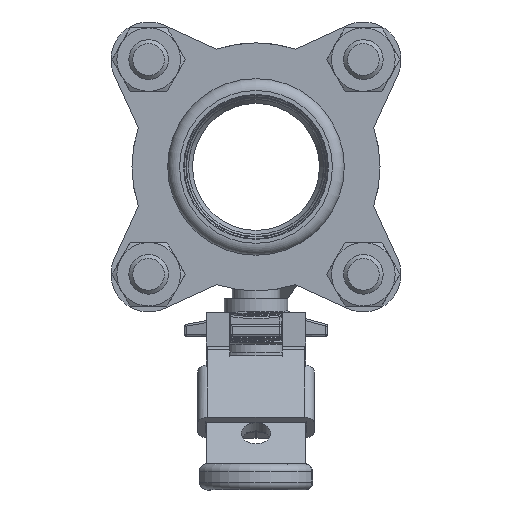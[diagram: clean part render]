
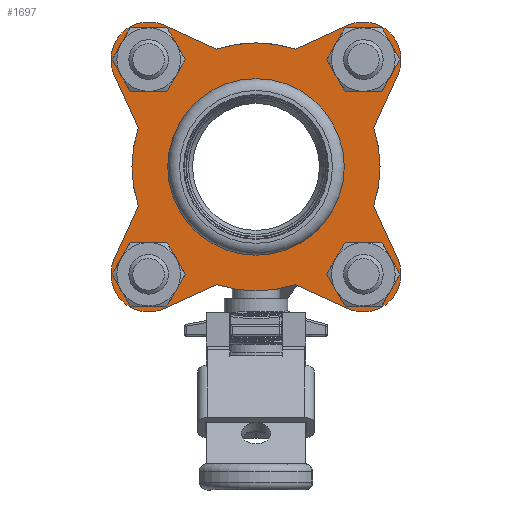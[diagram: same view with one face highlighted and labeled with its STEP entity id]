
A CAD part, left-side view. The second image highlights one B-rep face of the part: STEP entity #1697.
In plain terms, the highlighted planar face has unit normal (-1, 0, 0).
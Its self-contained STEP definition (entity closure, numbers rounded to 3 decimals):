
#1697=ADVANCED_FACE('',(#3566,#3567,#3568,#3569,#3570,#3571),#3572,.T.);
#3566=FACE_BOUND('',#9089,.T.);
#3567=FACE_BOUND('',#9090,.T.);
#3568=FACE_BOUND('',#9091,.T.);
#3569=FACE_BOUND('',#9092,.T.);
#3570=FACE_BOUND('',#9093,.T.);
#3571=FACE_OUTER_BOUND('',#9094,.T.);
#3572=PLANE('',#9095);
#9089=EDGE_LOOP('',(#82211));
#9090=EDGE_LOOP('',(#82212));
#9091=EDGE_LOOP('',(#82213));
#9092=EDGE_LOOP('',(#82214));
#9093=EDGE_LOOP('',(#82215));
#9094=EDGE_LOOP('',(#82216,#82217,#82218,#82219,#82220,#82221,#82222,#82223,#82224,#82225,#82226,#82227,#82228,#82229,#82230,#82231));
#9095=AXIS2_PLACEMENT_3D('',#82232,#82233,#82234);
#82211=ORIENTED_EDGE('',*,*,#86783,.T.);
#82212=ORIENTED_EDGE('',*,*,#86871,.F.);
#82213=ORIENTED_EDGE('',*,*,#86868,.F.);
#82214=ORIENTED_EDGE('',*,*,#86865,.F.);
#82215=ORIENTED_EDGE('',*,*,#86862,.F.);
#82216=ORIENTED_EDGE('',*,*,#86804,.F.);
#82217=ORIENTED_EDGE('',*,*,#86860,.F.);
#82218=ORIENTED_EDGE('',*,*,#86857,.F.);
#82219=ORIENTED_EDGE('',*,*,#86853,.F.);
#82220=ORIENTED_EDGE('',*,*,#86849,.F.);
#82221=ORIENTED_EDGE('',*,*,#86845,.F.);
#82222=ORIENTED_EDGE('',*,*,#86842,.F.);
#82223=ORIENTED_EDGE('',*,*,#86838,.F.);
#82224=ORIENTED_EDGE('',*,*,#86834,.F.);
#82225=ORIENTED_EDGE('',*,*,#86830,.F.);
#82226=ORIENTED_EDGE('',*,*,#86827,.F.);
#82227=ORIENTED_EDGE('',*,*,#86823,.F.);
#82228=ORIENTED_EDGE('',*,*,#86819,.F.);
#82229=ORIENTED_EDGE('',*,*,#86815,.F.);
#82230=ORIENTED_EDGE('',*,*,#86812,.F.);
#82231=ORIENTED_EDGE('',*,*,#86808,.F.);
#82232=CARTESIAN_POINT('',(-32.6,-27.047,27.047));
#82233=DIRECTION('',(-1.0,0.0,0.0));
#82234=DIRECTION('',(0.0,0.0,-1.0));
#86783=EDGE_CURVE('',#89244,#89244,#89245,.F.);
#86804=EDGE_CURVE('',#89279,#89281,#89282,.T.);
#86808=EDGE_CURVE('',#89281,#89287,#89288,.T.);
#86812=EDGE_CURVE('',#89287,#89292,#89293,.T.);
#86815=EDGE_CURVE('',#89292,#89296,#89297,.T.);
#86819=EDGE_CURVE('',#89296,#89302,#89303,.T.);
#86823=EDGE_CURVE('',#89302,#89308,#89309,.T.);
#86827=EDGE_CURVE('',#89308,#89313,#89314,.T.);
#86830=EDGE_CURVE('',#89313,#89317,#89318,.T.);
#86834=EDGE_CURVE('',#89317,#89323,#89324,.T.);
#86838=EDGE_CURVE('',#89323,#89329,#89330,.T.);
#86842=EDGE_CURVE('',#89329,#89334,#89335,.T.);
#86845=EDGE_CURVE('',#89334,#89338,#89339,.T.);
#86849=EDGE_CURVE('',#89338,#89344,#89345,.T.);
#86853=EDGE_CURVE('',#89344,#89350,#89351,.T.);
#86857=EDGE_CURVE('',#89350,#89355,#89356,.T.);
#86860=EDGE_CURVE('',#89355,#89279,#89359,.T.);
#86862=EDGE_CURVE('',#89361,#89361,#89362,.T.);
#86865=EDGE_CURVE('',#89366,#89366,#89367,.T.);
#86868=EDGE_CURVE('',#89371,#89371,#89372,.T.);
#86871=EDGE_CURVE('',#89376,#89376,#89377,.T.);
#89244=VERTEX_POINT('',#94618);
#89245=CIRCLE('',#94619,21.25);
#89279=VERTEX_POINT('',#94654);
#89281=VERTEX_POINT('',#94657);
#89282=LINE('',#94658,#94659);
#89287=VERTEX_POINT('',#94665);
#89288=CIRCLE('',#94666,9.5);
#89292=VERTEX_POINT('',#94672);
#89293=LINE('',#94673,#94674);
#89296=VERTEX_POINT('',#94678);
#89297=CIRCLE('',#94679,31.25);
#89302=VERTEX_POINT('',#94686);
#89303=LINE('',#94687,#94688);
#89308=VERTEX_POINT('',#94694);
#89309=CIRCLE('',#94695,9.5);
#89313=VERTEX_POINT('',#94701);
#89314=LINE('',#94702,#94703);
#89317=VERTEX_POINT('',#94707);
#89318=CIRCLE('',#94708,31.25);
#89323=VERTEX_POINT('',#94715);
#89324=LINE('',#94716,#94717);
#89329=VERTEX_POINT('',#94723);
#89330=CIRCLE('',#94724,9.5);
#89334=VERTEX_POINT('',#94730);
#89335=LINE('',#94731,#94732);
#89338=VERTEX_POINT('',#94736);
#89339=CIRCLE('',#94737,31.25);
#89344=VERTEX_POINT('',#94744);
#89345=LINE('',#94745,#94746);
#89350=VERTEX_POINT('',#94752);
#89351=CIRCLE('',#94753,9.5);
#89355=VERTEX_POINT('',#94759);
#89356=LINE('',#94760,#94761);
#89359=CIRCLE('',#94765,31.25);
#89361=VERTEX_POINT('',#94767);
#89362=CIRCLE('',#94768,5.25);
#89366=VERTEX_POINT('',#94772);
#89367=CIRCLE('',#94773,5.25);
#89371=VERTEX_POINT('',#94777);
#89372=CIRCLE('',#94778,5.25);
#89376=VERTEX_POINT('',#94782);
#89377=CIRCLE('',#94783,5.25);
#94618=CARTESIAN_POINT('',(-32.6,0.,21.25));
#94619=AXIS2_PLACEMENT_3D('',#104156,#104157,#104158);
#94654=CARTESIAN_POINT('',(-32.6,-9.856,29.655));
#94657=CARTESIAN_POINT('',(-32.6,-23.109,35.692));
#94658=CARTESIAN_POINT('',(-32.6,-9.856,29.655));
#94659=VECTOR('',#104200,1.0);
#94665=CARTESIAN_POINT('',(-32.6,-35.692,23.109));
#94666=AXIS2_PLACEMENT_3D('',#104205,#104206,#104207);
#94672=CARTESIAN_POINT('',(-32.6,-29.655,9.856));
#94673=CARTESIAN_POINT('',(-32.6,-35.692,23.109));
#94674=VECTOR('',#104210,1.0);
#94678=CARTESIAN_POINT('',(-32.6,-29.655,-9.856));
#94679=AXIS2_PLACEMENT_3D('',#104212,#104213,#104214);
#94686=CARTESIAN_POINT('',(-32.6,-35.692,-23.109));
#94687=CARTESIAN_POINT('',(-32.6,-29.655,-9.856));
#94688=VECTOR('',#104217,1.0);
#94694=CARTESIAN_POINT('',(-32.6,-23.109,-35.692));
#94695=AXIS2_PLACEMENT_3D('',#104222,#104223,#104224);
#94701=CARTESIAN_POINT('',(-32.6,-9.856,-29.655));
#94702=CARTESIAN_POINT('',(-32.6,-23.109,-35.692));
#94703=VECTOR('',#104227,1.0);
#94707=CARTESIAN_POINT('',(-32.6,9.856,-29.655));
#94708=AXIS2_PLACEMENT_3D('',#104229,#104230,#104231);
#94715=CARTESIAN_POINT('',(-32.6,23.109,-35.692));
#94716=CARTESIAN_POINT('',(-32.6,9.856,-29.655));
#94717=VECTOR('',#104234,1.0);
#94723=CARTESIAN_POINT('',(-32.6,35.692,-23.109));
#94724=AXIS2_PLACEMENT_3D('',#104239,#104240,#104241);
#94730=CARTESIAN_POINT('',(-32.6,29.655,-9.856));
#94731=CARTESIAN_POINT('',(-32.6,35.692,-23.109));
#94732=VECTOR('',#104244,1.0);
#94736=CARTESIAN_POINT('',(-32.6,29.655,9.856));
#94737=AXIS2_PLACEMENT_3D('',#104246,#104247,#104248);
#94744=CARTESIAN_POINT('',(-32.6,35.692,23.109));
#94745=CARTESIAN_POINT('',(-32.6,29.655,9.856));
#94746=VECTOR('',#104251,1.0);
#94752=CARTESIAN_POINT('',(-32.6,23.109,35.692));
#94753=AXIS2_PLACEMENT_3D('',#104256,#104257,#104258);
#94759=CARTESIAN_POINT('',(-32.6,9.856,29.655));
#94760=CARTESIAN_POINT('',(-32.6,23.109,35.692));
#94761=VECTOR('',#104261,1.0);
#94765=AXIS2_PLACEMENT_3D('',#104263,#104264,#104265);
#94767=CARTESIAN_POINT('',(-32.6,-27.047,-21.797));
#94768=AXIS2_PLACEMENT_3D('',#104266,#104267,#104268);
#94772=CARTESIAN_POINT('',(-32.6,27.047,-21.797));
#94773=AXIS2_PLACEMENT_3D('',#104272,#104273,#104274);
#94777=CARTESIAN_POINT('',(-32.6,27.047,32.297));
#94778=AXIS2_PLACEMENT_3D('',#104278,#104279,#104280);
#94782=CARTESIAN_POINT('',(-32.6,-27.047,32.297));
#94783=AXIS2_PLACEMENT_3D('',#104284,#104285,#104286);
#104156=CARTESIAN_POINT('',(-32.6,0.,0.));
#104157=DIRECTION('',(-1.0,0.0,0.0));
#104158=DIRECTION('',(0.0,0.0,1.0));
#104200=DIRECTION('',(0.0,-0.91,0.415));
#104205=CARTESIAN_POINT('',(-32.6,-27.047,27.047));
#104206=DIRECTION('',(1.0,0.0,0.0));
#104207=DIRECTION('',(0.0,0.0,-1.0));
#104210=DIRECTION('',(0.0,0.415,-0.91));
#104212=CARTESIAN_POINT('',(-32.6,0.,0.));
#104213=DIRECTION('',(1.0,0.0,0.0));
#104214=DIRECTION('',(0.0,0.0,-1.0));
#104217=DIRECTION('',(0.0,-0.415,-0.91));
#104222=CARTESIAN_POINT('',(-32.6,-27.047,-27.047));
#104223=DIRECTION('',(1.0,0.0,0.0));
#104224=DIRECTION('',(0.0,0.0,-1.0));
#104227=DIRECTION('',(0.0,0.91,0.415));
#104229=CARTESIAN_POINT('',(-32.6,0.,0.));
#104230=DIRECTION('',(1.0,0.0,0.0));
#104231=DIRECTION('',(0.0,0.0,-1.0));
#104234=DIRECTION('',(0.0,0.91,-0.415));
#104239=CARTESIAN_POINT('',(-32.6,27.047,-27.047));
#104240=DIRECTION('',(1.0,0.0,0.0));
#104241=DIRECTION('',(0.0,0.0,-1.0));
#104244=DIRECTION('',(0.0,-0.415,0.91));
#104246=CARTESIAN_POINT('',(-32.6,0.,0.));
#104247=DIRECTION('',(1.0,0.0,0.0));
#104248=DIRECTION('',(0.0,0.0,-1.0));
#104251=DIRECTION('',(0.0,0.415,0.91));
#104256=CARTESIAN_POINT('',(-32.6,27.047,27.047));
#104257=DIRECTION('',(1.0,0.0,0.0));
#104258=DIRECTION('',(0.0,0.0,-1.0));
#104261=DIRECTION('',(0.0,-0.91,-0.415));
#104263=CARTESIAN_POINT('',(-32.6,0.,0.));
#104264=DIRECTION('',(1.0,0.0,0.0));
#104265=DIRECTION('',(0.0,0.0,-1.0));
#104266=CARTESIAN_POINT('',(-32.6,-27.047,-27.047));
#104267=DIRECTION('',(-1.0,0.0,0.0));
#104268=DIRECTION('',(0.0,0.0,1.0));
#104272=CARTESIAN_POINT('',(-32.6,27.047,-27.047));
#104273=DIRECTION('',(-1.0,0.0,0.0));
#104274=DIRECTION('',(0.0,0.0,1.0));
#104278=CARTESIAN_POINT('',(-32.6,27.047,27.047));
#104279=DIRECTION('',(-1.0,0.0,0.0));
#104280=DIRECTION('',(0.0,0.0,1.0));
#104284=CARTESIAN_POINT('',(-32.6,-27.047,27.047));
#104285=DIRECTION('',(-1.0,0.0,0.0));
#104286=DIRECTION('',(0.0,0.0,1.0));
